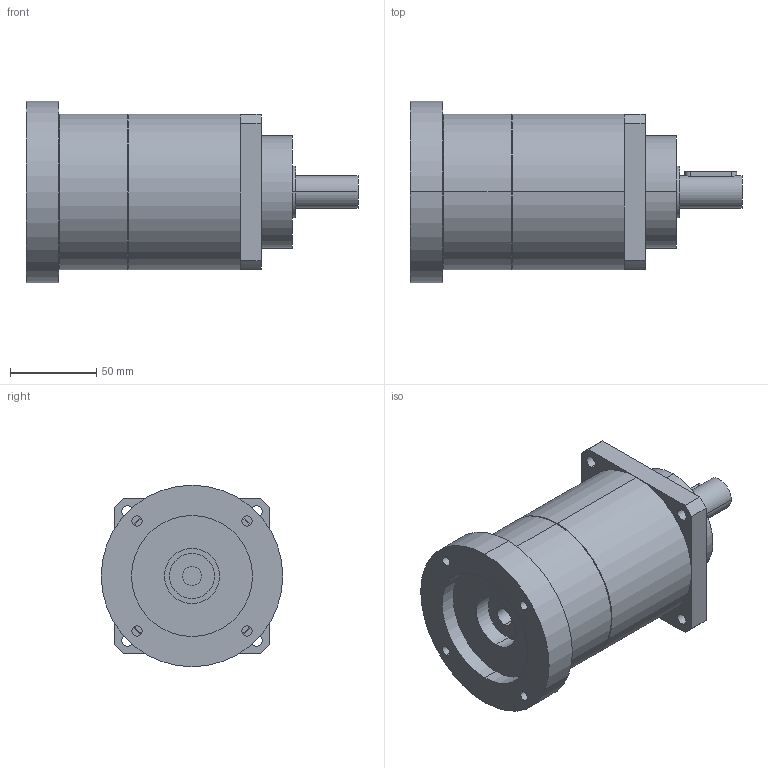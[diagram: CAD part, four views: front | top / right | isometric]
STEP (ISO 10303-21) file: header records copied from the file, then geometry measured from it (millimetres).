
FILE_DESCRIPTION(('CoCreate Modeling STEP Export'),'2;1');
FILE_NAME('GPT90_ig-9-12-16-20-25-28-35-40-50-70-100_19_B5T_11_P14.stp','2015-02-04T11:24:10',(''),(''),'CoCreate Modeling STEP processor for AP214 (Solid Model)','CoCreate Modeling 16.00C 25-Feb-2009 (C) Parametric Technology GmbH','');
FILE_SCHEMA(('AUTOMOTIVE_DESIGN { 1 0 10303 214 1 1 1 1 }'));
Length unit declared in the file: millimetre
Products named in the file (2): GPT90_ig-9-12-16-20-25-28-35-40-50-70-100_19_B5T_11_P14
Assembly tree (1 placements, depth 2):
  GPT90_ig-9-12-16-20-25-28-35-40-50-70-100_19_B5T_11_P14
    GPT90_ig-9-12-16-20-25-28-35-40-50-70-100_19_B5T_11_P14
Bounding box: 192 x 105 x 105 mm (x, y, z)
Volume: 951929.7 mm3; surface area: 74196.3 mm2
Topology: 1 solids, 1 shells, 75 faces, 205 edges, 138 vertices
Faces by surface type: cylinder 44, plane 27, cone 4
Entity records: 2477 total; most frequent: CARTESIAN_POINT 717, ORIENTED_EDGE 410, DIRECTION 294, EDGE_CURVE 205, VERTEX_POINT 138, AXIS2_PLACEMENT_3D 112, EDGE_LOOP 97, FACE_OUTER_BOUND 75
